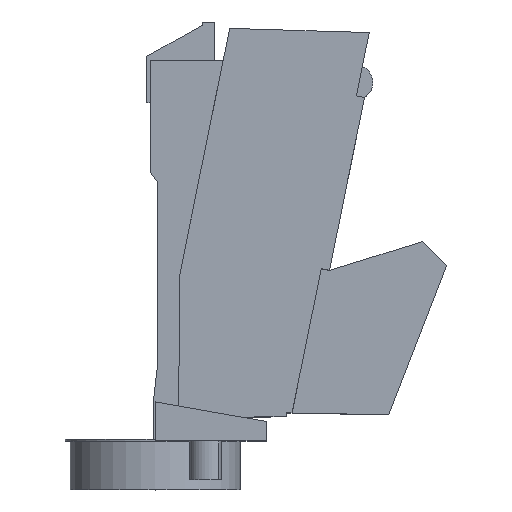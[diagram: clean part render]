
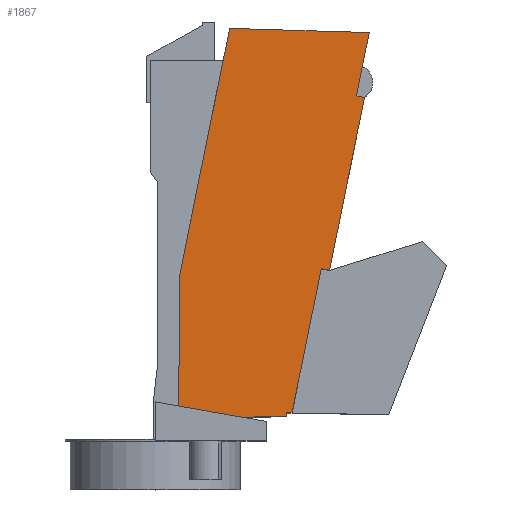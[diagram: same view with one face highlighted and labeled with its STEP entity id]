
A CAD part, top view. The second image highlights one B-rep face of the part: STEP entity #1867.
In plain terms, the highlighted planar face has unit normal (0, 0, 1).
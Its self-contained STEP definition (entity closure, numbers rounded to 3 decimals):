
#8 = ORIENTED_EDGE ( 'NONE', *, *, #683, .T. ) ;
#18 = VECTOR ( 'NONE', #1078, 1000. ) ;
#21 = CARTESIAN_POINT ( 'NONE',  ( 32.38, -32.714, 12.1 ) ) ;
#23 = CARTESIAN_POINT ( 'NONE',  ( 23.835, -36.58, 12.1 ) ) ;
#30 = VERTEX_POINT ( 'NONE', #641 ) ;
#32 = EDGE_CURVE ( 'NONE', #1907, #1649, #1055, .T. ) ;
#50 = LINE ( 'NONE', #1265, #490 ) ;
#70 = LINE ( 'NONE', #1763, #1099 ) ;
#84 = DIRECTION ( 'NONE',  ( 0.98, -0.199, 0. ) ) ;
#98 = ORIENTED_EDGE ( 'NONE', *, *, #1777, .T. ) ;
#164 = EDGE_CURVE ( 'NONE', #495, #875, #222, .T. ) ;
#191 = CARTESIAN_POINT ( 'NONE',  ( 10.961, 39.659, 12.1 ) ) ;
#214 = CARTESIAN_POINT ( 'NONE',  ( 41.255, -3.443, 12.1 ) ) ;
#220 = LINE ( 'NONE', #1122, #617 ) ;
#222 = LINE ( 'NONE', #214, #1938 ) ;
#238 = LINE ( 'NONE', #260, #1029 ) ;
#260 = CARTESIAN_POINT ( 'NONE',  ( 10.52, -4.22, 12.1 ) ) ;
#282 = CARTESIAN_POINT ( 'NONE',  ( 41.255, -3.443, 12.1 ) ) ;
#286 = LINE ( 'NONE', #1456, #1667 ) ;
#306 = CARTESIAN_POINT ( 'NONE',  ( 32.38, -33.48, 12.1 ) ) ;
#348 = LINE ( 'NONE', #955, #1348 ) ;
#393 = VERTEX_POINT ( 'NONE', #21 ) ;
#406 = ORIENTED_EDGE ( 'NONE', *, *, #1300, .T. ) ;
#407 = ORIENTED_EDGE ( 'NONE', *, *, #602, .T. ) ;
#408 = ORIENTED_EDGE ( 'NONE', *, *, #32, .T. ) ;
#417 = VERTEX_POINT ( 'NONE', #306 ) ;
#460 = DIRECTION ( 'NONE',  ( -1., 0.03, 0. ) ) ;
#470 = CARTESIAN_POINT ( 'NONE',  ( 33.577, -32.735, 12.1 ) ) ;
#490 = VECTOR ( 'NONE', #1337, 1000. ) ;
#495 = VERTEX_POINT ( 'NONE', #921 ) ;
#497 = CARTESIAN_POINT ( 'NONE',  ( 32.38, -32.714, 12.1 ) ) ;
#525 = CARTESIAN_POINT ( 'NONE',  ( 46.791, 32.389, 12.1 ) ) ;
#531 = DIRECTION ( 'NONE',  ( 0.98, -0.199, 0. ) ) ;
#581 = DIRECTION ( 'NONE',  ( 0., 0., -1. ) ) ;
#585 = DIRECTION ( 'NONE',  ( -0.985, 0.174, 0. ) ) ;
#602 = EDGE_CURVE ( 'NONE', #417, #393, #220, .T. ) ;
#613 = CARTESIAN_POINT ( 'NONE',  ( 23.835, -36.58, 12.1 ) ) ;
#617 = VECTOR ( 'NONE', #1563, 1000. ) ;
#632 = CARTESIAN_POINT ( 'NONE',  ( 49.433, 45.41, 12.1 ) ) ;
#635 = EDGE_CURVE ( 'NONE', #393, #1181, #829, .T. ) ;
#639 = DIRECTION ( 'NONE',  ( -1., 0., 0. ) ) ;
#641 = CARTESIAN_POINT ( 'NONE',  ( 10.279, -31.331, 12.1 ) ) ;
#680 = CARTESIAN_POINT ( 'NONE',  ( 10.52, -4.22, 12.1 ) ) ;
#683 = EDGE_CURVE ( 'NONE', #1154, #417, #50, .T. ) ;
#711 = CIRCLE ( 'NONE', #1512, 3. ) ;
#829 = LINE ( 'NONE', #497, #1790 ) ;
#841 = DIRECTION ( 'NONE',  ( -0.199, -0.98, 0. ) ) ;
#875 = VERTEX_POINT ( 'NONE', #282 ) ;
#897 = FACE_OUTER_BOUND ( 'NONE', #958, .T. ) ;
#907 = DIRECTION ( 'NONE',  ( 0., 0., -1. ) ) ;
#921 = CARTESIAN_POINT ( 'NONE',  ( 48.457, 32.051, 12.1 ) ) ;
#945 = ORIENTED_EDGE ( 'NONE', *, *, #1367, .F. ) ;
#948 = VERTEX_POINT ( 'NONE', #1671 ) ;
#955 = CARTESIAN_POINT ( 'NONE',  ( 48.023, 38.462, 12.1 ) ) ;
#957 = VECTOR ( 'NONE', #460, 1000. ) ;
#958 = EDGE_LOOP ( 'NONE', ( #945, #1644, #8, #407, #1928, #1454, #1959, #1047, #1334, #406, #408, #98, #1795 ) ) ;
#1008 = DIRECTION ( 'NONE',  ( -0.009, -1., 0. ) ) ;
#1022 = EDGE_CURVE ( 'NONE', #948, #875, #286, .T. ) ;
#1029 = VECTOR ( 'NONE', #1008, 1000. ) ;
#1047 = ORIENTED_EDGE ( 'NONE', *, *, #164, .F. ) ;
#1055 = LINE ( 'NONE', #632, #957 ) ;
#1064 = VERTEX_POINT ( 'NONE', #1308 ) ;
#1078 = DIRECTION ( 'NONE',  ( 0.199, 0.98, 0. ) ) ;
#1085 = CARTESIAN_POINT ( 'NONE',  ( 23.8, -33.58, 12.1 ) ) ;
#1092 = CARTESIAN_POINT ( 'NONE',  ( 20.765, 46.271, 12.1 ) ) ;
#1099 = VECTOR ( 'NONE', #1931, 1000. ) ;
#1105 = DIRECTION ( 'NONE',  ( 1., -0.017, 0. ) ) ;
#1122 = CARTESIAN_POINT ( 'NONE',  ( 32.38, -33.48, 12.1 ) ) ;
#1136 = EDGE_CURVE ( 'NONE', #1064, #1154, #711, .T. ) ;
#1154 = VERTEX_POINT ( 'NONE', #1085 ) ;
#1181 = VERTEX_POINT ( 'NONE', #470 ) ;
#1189 = PLANE ( 'NONE',  #1918 ) ;
#1200 = CARTESIAN_POINT ( 'NONE',  ( 48.023, 38.462, 12.1 ) ) ;
#1224 = VECTOR ( 'NONE', #531, 1000. ) ;
#1246 = VERTEX_POINT ( 'NONE', #525 ) ;
#1265 = CARTESIAN_POINT ( 'NONE',  ( 23.8, -33.58, 12.1 ) ) ;
#1279 = EDGE_CURVE ( 'NONE', #1246, #495, #1895, .T. ) ;
#1300 = EDGE_CURVE ( 'NONE', #1246, #1907, #348, .T. ) ;
#1308 = CARTESIAN_POINT ( 'NONE',  ( 23.302, -33.628, 12.1 ) ) ;
#1334 = ORIENTED_EDGE ( 'NONE', *, *, #1279, .F. ) ;
#1336 = CARTESIAN_POINT ( 'NONE',  ( 49.433, 45.41, 12.1 ) ) ;
#1337 = DIRECTION ( 'NONE',  ( 1., 0.012, 0. ) ) ;
#1338 = LINE ( 'NONE', #1607, #1575 ) ;
#1348 = VECTOR ( 'NONE', #1565, 1000. ) ;
#1349 = DIRECTION ( 'NONE',  ( -1., 0., 0. ) ) ;
#1367 = EDGE_CURVE ( 'NONE', #1064, #30, #1338, .T. ) ;
#1393 = EDGE_CURVE ( 'NONE', #1834, #30, #238, .T. ) ;
#1454 = ORIENTED_EDGE ( 'NONE', *, *, #1960, .T. ) ;
#1456 = CARTESIAN_POINT ( 'NONE',  ( 3.759, 4.165, 12.1 ) ) ;
#1512 = AXIS2_PLACEMENT_3D ( 'NONE', #23, #907, #639 ) ;
#1563 = DIRECTION ( 'NONE',  ( 0., 1., 0. ) ) ;
#1565 = DIRECTION ( 'NONE',  ( 0.199, 0.98, 0. ) ) ;
#1575 = VECTOR ( 'NONE', #585, 1000. ) ;
#1607 = CARTESIAN_POINT ( 'NONE',  ( 24.324, -33.808, 12.1 ) ) ;
#1644 = ORIENTED_EDGE ( 'NONE', *, *, #1136, .T. ) ;
#1649 = VERTEX_POINT ( 'NONE', #1092 ) ;
#1667 = VECTOR ( 'NONE', #84, 1000. ) ;
#1671 = CARTESIAN_POINT ( 'NONE',  ( 39.589, -3.105, 12.1 ) ) ;
#1763 = CARTESIAN_POINT ( 'NONE',  ( 20.765, 46.271, 12.1 ) ) ;
#1777 = EDGE_CURVE ( 'NONE', #1649, #1834, #70, .T. ) ;
#1790 = VECTOR ( 'NONE', #1105, 1000. ) ;
#1795 = ORIENTED_EDGE ( 'NONE', *, *, #1393, .T. ) ;
#1834 = VERTEX_POINT ( 'NONE', #680 ) ;
#1867 = ADVANCED_FACE ( 'NONE', ( #897 ), #1189, .F. ) ;
#1895 = LINE ( 'NONE', #191, #1224 ) ;
#1907 = VERTEX_POINT ( 'NONE', #1336 ) ;
#1918 = AXIS2_PLACEMENT_3D ( 'NONE', #613, #581, #1349 ) ;
#1928 = ORIENTED_EDGE ( 'NONE', *, *, #635, .T. ) ;
#1931 = DIRECTION ( 'NONE',  ( -0.199, -0.98, 0. ) ) ;
#1938 = VECTOR ( 'NONE', #841, 1000. ) ;
#1959 = ORIENTED_EDGE ( 'NONE', *, *, #1022, .T. ) ;
#1960 = EDGE_CURVE ( 'NONE', #1181, #948, #1962, .T. ) ;
#1962 = LINE ( 'NONE', #1200, #18 ) ;
